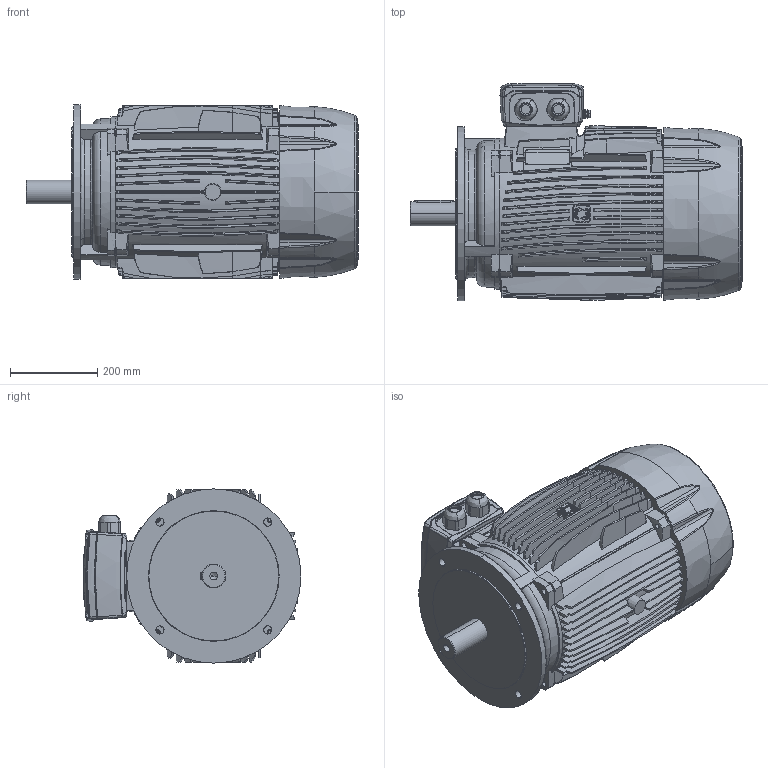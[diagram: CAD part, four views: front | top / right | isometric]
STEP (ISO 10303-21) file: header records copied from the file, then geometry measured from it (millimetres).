
FILE_DESCRIPTION((''),'2;1');
FILE_NAME('200L_ASM','2016-07-20T',('user'),(''),'PRO/ENGINEER BY PARAMETRIC TECHNOLOGY CORPORATION, 2010020','PRO/ENGINEER BY PARAMETRIC TECHNOLOGY CORPORATION, 2010020','');
FILE_SCHEMA(('CONFIG_CONTROL_DESIGN'));
Products named in the file (6): FRA200L; B5200; TBOX200; FCV200; SH200; 200L_ASM
Assembly tree (5 placements, depth 2):
  200L_ASM
    FRA200L
    B5200
    TBOX200
    FCV200
    SH200
Bounding box: 762.3 x 500.06 x 400 mm (x, y, z)
Volume: 72797252.7 mm3; surface area: 2619715.7 mm2
Topology: 5 solids, 17 shells, 2240 faces, 6271 edges, 4180 vertices
Faces by surface type: plane 779, cylinder 739, torus 275, bspline 265, cone 158, extrusion 24
Entity records: 87288 total; most frequent: CARTESIAN_POINT 34796, ORIENTED_EDGE 12474, DIRECTION 8744, EDGE_CURVE 6237, VERTEX_POINT 4180, AXIS2_PLACEMENT_3D 3464, B_SPLINE_CURVE_WITH_KNOTS 2967, EDGE_LOOP 2431
